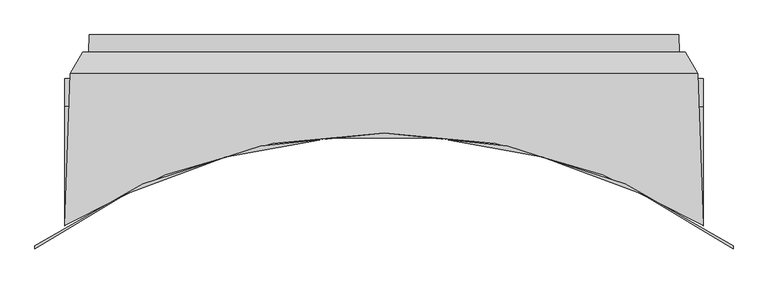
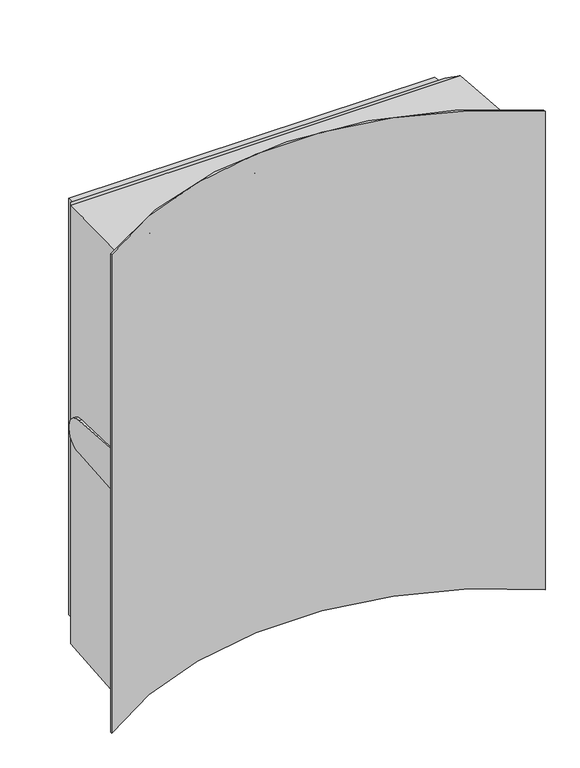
"""IFC4 building model written with IfcOpenShell, lengths in millimetres: proxy geometry, SU.1500x1800ManwayRiserAdaptor.3000."""

from ifc_helpers import new_model, si_unit, frame, origin, place, context, project, spatial, polyline, circle_curve, ellipse_curve, source, transform, mapped, element, save
from ifc_brep_helpers import plane_surface, cylinder_surface, revolved_surface, advanced_brep


def generic_models_54a7b9da(model_context):
    return source(origin(), model_context, "Body", "AdvancedBrep", [
        advanced_brep(
        [(-741.5036573, 0.0, -891.5036573), (741.5036573, 0.0, -891.5036573), (743.0401711, -44.0, -893.0401711), (-743.0401711, -44.0, -893.0401711), (758.3020983, -44.0, 908.3020983), (758.3020983, -44.0, -908.3020983), (-758.3020983, -44.0, -908.3020983), (-758.3020983, -44.0, 908.3020983), (743.0401711, -44.0, 893.0401711), (-743.0401711, -44.0, 893.0401711), (-741.5036573, 0.0, 891.5036573), (741.5036573, 0.0, 891.5036573), (-803.25, -180.0, 70.0), (-803.25, -480.6399496, 94.0304889), (-802.9957795, -480.4787901, 94.0176073), (-792.5028289, -180.0, 70.0), (-792.5028289, -180.0, -70.0), (-803.25, -180.0, -70.0), (-803.25, -480.6399496, -94.0304889), (-802.9957795, -480.4787901, -94.0176073), (878.2496957, -531.4339616, 1025.0), (878.2496957, -531.4339616, -1025.0), (-878.2496957, -531.4339616, -1025.0), (-878.2496957, -531.4339616, 1025.0), (-802.9957795, -480.4787901, -952.9957795), (802.9957795, -480.4787901, -952.9957795), (802.9957795, -480.4787901, -94.0176073), (803.25, -480.6399496, -94.0304889), (803.25, -480.6399496, 94.0304889), (802.9957795, -480.4787901, 94.0176073), (802.9957795, -480.4787901, 952.9957795), (-802.9957795, -480.4787901, 952.9957795), (-789.6496465, -98.2955463, 939.6496465), (-789.6496465, -98.2955463, -939.6496465), (803.25, -180.0, -70.0), (792.5028289, -180.0, -70.0), (792.5028289, -180.0, 70.0), (803.25, -180.0, 70.0), (789.6496465, -98.2955463, -939.6496465), (789.6496465, -98.2955463, 939.6496465), (878.2496957, -538.8429924, -1025.0), (878.2496957, -538.8429924, 1025.0), (-878.2496957, -538.8429924, 1025.0), (-878.2496957, -538.8429924, -1025.0)],
        [
            (0, 1),
            (1, 2),
            (2, 3),
            (3, 0),
            (4, 5),
            (5, 6),
            (6, 7),
            (7, 4),
            (2, 8),
            (8, 9),
            (9, 3),
            (10, 0),
            (9, 10),
            (11, 10),
            (8, 11),
            (1, 11),
            (12, 13),
            (13, 14, ellipse_curve(frame((0.0, -1747.4427904, 195.2874632), z_axis=(0.0, -0.07967700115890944, -0.99682073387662), x_axis=(0.0, -0.99682073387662, 0.07967700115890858)), 1504.7841091, 1500.0)),
            (14, 15),
            (15, 12),
            (15, 16, ellipse_curve(frame((-792.5028289, -180.0, 0.0), z_axis=(-0.9993908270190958, 0.034899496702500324, 0.0), x_axis=(0.03489949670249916, 0.9993908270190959, 0.0)), 70.0426681, 70.0)),
            (16, 17),
            (17, 12, circle_curve(frame((-803.25, -180.0, 0.0), z_axis=(1.0, 0.0, 0.0), x_axis=(0.0, 0.0, -1.0)), 70.0)),
            (18, 17),
            (16, 19),
            (19, 18, ellipse_curve(frame((0.0, -1747.4427904, -195.2874632), z_axis=(0.0, -0.07967700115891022, 0.99682073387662), x_axis=(0.0, 0.9968207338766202, 0.0796770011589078)), 1504.7841091, 1500.0)),
            (20, 21),
            (21, 22, circle_curve(frame((0.0, -1747.4427904, -1025.0), z_axis=(0.0, 0.0, 1.0), x_axis=(0.5854997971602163, 0.8106725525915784, 0.0)), 1500.0)),
            (22, 23),
            (23, 20, circle_curve(frame((0.0, -1747.4427904, 1025.0), z_axis=(0.0, 0.0, -1.0), x_axis=(0.5854997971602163, 0.8106725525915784, 0.0)), 1500.0)),
            (13, 18),
            (19, 24),
            (24, 25, ellipse_curve(frame((0.0, -1747.4427904, -997.2391373), z_axis=(0.0, 0.034899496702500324, -0.9993908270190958), x_axis=(0.0, 0.9993908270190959, 0.03489949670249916)), 1500.9143164, 1500.0)),
            (25, 26),
            (26, 27, ellipse_curve(frame((0.0, -1747.4427904, -195.2874632), z_axis=(0.0, 0.07967700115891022, -0.99682073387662), x_axis=(0.0, 0.9968207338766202, 0.0796770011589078)), 1504.7841091, 1500.0)),
            (27, 28),
            (28, 29, ellipse_curve(frame((0.0, -1747.4427904, 195.2874632), z_axis=(0.0, 0.07967700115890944, 0.99682073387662), x_axis=(0.0, -0.99682073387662, 0.07967700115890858)), 1504.7841091, 1500.0)),
            (29, 30),
            (30, 31, ellipse_curve(frame((0.0, -1747.4427904, 997.2391373), z_axis=(0.0, 0.034899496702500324, 0.9993908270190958), x_axis=(0.0, -0.9993908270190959, 0.03489949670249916)), 1500.9143164, 1500.0)),
            (31, 14),
            (31, 32),
            (32, 33),
            (33, 24),
            (34, 27),
            (26, 35),
            (35, 34),
            (35, 36, ellipse_curve(frame((792.5028289, -180.0, 0.0), z_axis=(0.9993908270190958, 0.03489949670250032, 0.0), x_axis=(0.03489949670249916, -0.9993908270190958, 0.0)), 70.0426681, 70.0)),
            (36, 37),
            (37, 34, circle_curve(frame((803.25, -180.0, 0.0), z_axis=(-1.0, 0.0, 0.0), x_axis=(0.0, 0.0, -1.0)), 70.0)),
            (28, 37),
            (36, 29),
            (25, 38),
            (38, 39),
            (39, 30),
            (33, 38),
            (38, 5),
            (4, 39),
            (33, 6),
            (32, 7),
            (39, 32),
            (40, 41),
            (41, 42, circle_curve(frame((0.0, -1747.4427904, 1025.0), z_axis=(0.0, 0.0, 1.0), x_axis=(-0.5878512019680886, -0.8089690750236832, 0.0)), 1494.0)),
            (42, 43),
            (43, 40, circle_curve(frame((0.0, -1747.4427904, -1025.0), z_axis=(0.0, 0.0, -1.0), x_axis=(-0.5878512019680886, -0.8089690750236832, 0.0)), 1494.0)),
            (40, 21),
            (20, 41),
            (42, 23),
            (22, 43),
        ],
        [
            plane_surface(frame((700.0, 0.0, -891.5036573), z_axis=(0.0, 0.03489949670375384, -0.999390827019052), x_axis=(0.0, -0.999390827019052, -0.03489949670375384))),
            plane_surface(frame((700.0, -44.0, -893.0401711), z_axis=(0.0, 1.0, 0.0), x_axis=(0.0, 0.0, -1.0))),
            plane_surface(frame((-741.5036573, 0.0, -850.0), z_axis=(-0.999390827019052, 0.034899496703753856, 0.0), x_axis=(-0.034899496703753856, -0.999390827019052, 0.0))),
            plane_surface(frame((-700.0, 0.0, 891.5036573), z_axis=(0.0, 0.03489949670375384, 0.999390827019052), x_axis=(0.0, -0.999390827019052, 0.03489949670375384))),
            plane_surface(frame((741.5036573, 0.0, 850.0), z_axis=(0.999390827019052, 0.03489949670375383, 0.0), x_axis=(0.03489949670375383, -0.999390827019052, 0.0))),
            plane_surface(frame((0.0, -180.0, 70.0), z_axis=(0.0, 0.07967700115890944, 0.99682073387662), x_axis=(0.0, -0.99682073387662, 0.07967700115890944))),
            cylinder_surface(frame((0.0, -180.0, 0.0), z_axis=(1.0, 0.0, 0.0), x_axis=(0.0, 0.0, -1.0)), 70.0),
            plane_surface(frame((0.0, -487.75, -94.5988032), z_axis=(0.0, 0.07967700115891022, -0.99682073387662), x_axis=(0.0, 0.99682073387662, 0.07967700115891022))),
            cylinder_surface(frame((0.0, -1747.4427904, 0.0), z_axis=(0.0, 0.0, 1.0), x_axis=(0.5854997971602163, 0.8106725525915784, 0.0)), 1500.0),
            plane_surface(frame((-789.6496465, -98.2955463, -850.0), z_axis=(-0.9993908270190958, 0.034899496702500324, 0.0), x_axis=(-0.034899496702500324, -0.9993908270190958, 0.0))),
            plane_surface(frame((789.6496465, -98.2955463, 850.0), z_axis=(0.9993908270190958, 0.03489949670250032, 0.0), x_axis=(0.03489949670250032, -0.9993908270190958, 0.0))),
            plane_surface(frame((700.0, -98.2955463, -939.6496465), z_axis=(0.0, 0.034899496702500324, -0.9993908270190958), x_axis=(0.0, -0.9993908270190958, -0.034899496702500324))),
            plane_surface(frame((758.3020983, -44.0, 850.0), z_axis=(0.8660254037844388, 0.49999999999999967, 0.0), x_axis=(0.49999999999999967, -0.8660254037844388, 0.0))),
            plane_surface(frame((700.0, -44.0, -908.3020983), z_axis=(0.0, 0.4999999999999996, -0.8660254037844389), x_axis=(0.0, -0.8660254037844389, -0.4999999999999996))),
            plane_surface(frame((-758.3020983, -44.0, -850.0), z_axis=(-0.8660254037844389, 0.4999999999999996, 0.0), x_axis=(-0.4999999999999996, -0.8660254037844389, 0.0))),
            plane_surface(frame((-700.0, -98.2955463, 939.6496465), z_axis=(0.0, 0.034899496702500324, 0.9993908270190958), x_axis=(0.0, -0.9993908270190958, 0.034899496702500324))),
            plane_surface(frame((-700.0, -44.0, 908.3020983), z_axis=(0.0, 0.4999999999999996, 0.8660254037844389), x_axis=(0.0, -0.8660254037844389, 0.4999999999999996))),
            revolved_surface(polyline([(-878.2496957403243, -2956.0425884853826, 1025.0), (-878.2496957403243, -2956.0425884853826, -1025.0)]), (0.0, -1747.4427904, 0.0), (0.0, 0.0, 1.0)),
            plane_surface(frame((878.2496957, -538.8429924, 0.0), z_axis=(1.0, 0.0, 0.0), x_axis=(0.0, 1.0, 0.0))),
            plane_surface(frame((-878.2496957, -531.4339616, 0.0), z_axis=(-1.0, 0.0, 0.0), x_axis=(0.0, -1.0, 0.0))),
            plane_surface(frame((0.0, -393.1428914, 1025.0), z_axis=(0.0, 0.0, 1.0), x_axis=(1.0, 0.0, 0.0))),
            plane_surface(frame((-803.25, -298.875, 0.0), z_axis=(-1.0, 0.0, 0.0), x_axis=(0.0, 0.0, -1.0))),
            plane_surface(frame((803.25, -298.875, 0.0), z_axis=(1.0, 0.0, 0.0), x_axis=(0.0, 0.0, -1.0))),
            plane_surface(frame((0.0, -393.1428914, -1025.0), z_axis=(0.0, 0.0, -1.0), x_axis=(1.0, 0.0, 0.0))),
            plane_surface(frame((700.0, 0.0, -885.5), z_axis=(0.0, 1.0, 0.0), x_axis=(0.0, 0.0, -1.0))),
        ],
        [
            (0, [[1, 2, 3, 4]]),
            (1, [[5, 6, 7, 8], [9, 10, 11, -3]]),
            (2, [[12, -4, -11, 13]]),
            (3, [[14, -13, -10, 15]]),
            (4, [[16, -15, -9, -2]]),
            (5, [[17, 18, 19, 20]]),
            (6, [[-20, 21, 22, 23]]),
            (7, [[24, -22, 25, 26]]),
            (8, [[27, 28, 29, 30], [-18, 31, -26, 32, 33, 34, 35, 36, 37, 38, 39, 40]]),
            (9, [[-40, 41, 42, 43, -32, -25, -21, -19]]),
            (7, [[44, -35, 45, 46]]),
            (6, [[-46, 47, 48, 49]]),
            (5, [[50, -48, 51, -37]]),
            (10, [[-34, 52, 53, 54, -38, -51, -47, -45]]),
            (11, [[-52, -33, -43, 55]]),
            (12, [[-53, 56, -5, 57]]),
            (13, [[-55, 58, -6, -56]]),
            (14, [[-42, 59, -7, -58]]),
            (15, [[-41, -39, -54, 60]]),
            (16, [[-60, -57, -8, -59]]),
            (17, [[61, 62, 63, 64]]),
            (18, [[-61, 65, -27, 66]]),
            (19, [[-63, 67, -29, 68]]),
            (20, [[-66, -30, -67, -62]]),
            (21, [[-17, -23, -24, -31]]),
            (22, [[-44, -49, -50, -36]]),
            (23, [[-64, -68, -28, -65]]),
            (24, [[-1, -12, -14, -16]]),
        ],
    ),
    ])


if __name__ == "__main__":
    model = new_model("IFC4")
    model_context = context("Model", 3, world=origin())
    ifc_project = project(units=[si_unit("LENGTHUNIT", "METRE", prefix="MILLI")], contexts=[model_context])
    site = spatial("IfcSite", under=ifc_project)
    building = spatial("IfcBuilding", under=site)
    placement = place(None, origin())
    generic_models_shape = generic_models_54a7b9da(model_context)
    element("IfcBuildingElementProxy", 1, Name="SU.1500x1800ManwayRiserAdaptor.3000", ObjectType="SU.1500x1800ManwayRiserAdaptor.3000", at=placement, inside=building, context=model_context, shape_type="MappedRepresentation", body=[
        mapped(generic_models_shape, transform((0.0, 0.0, 0.0), x_axis=(1.0, 0.0, 0.0), y_axis=(0.0, 1.0, 0.0), z_axis=(0.0, 0.0, 1.0))),
    ])
    save(model, "model.ifc")
